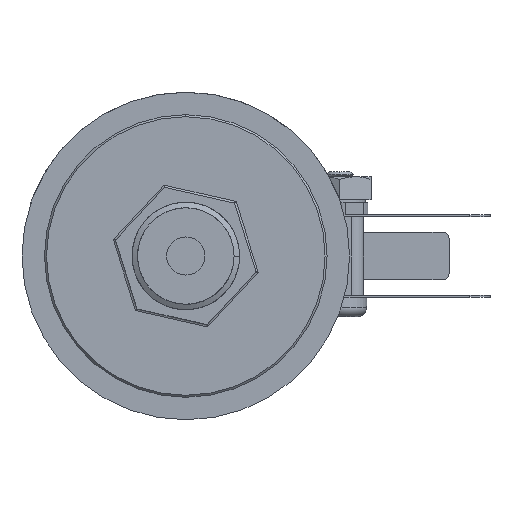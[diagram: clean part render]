
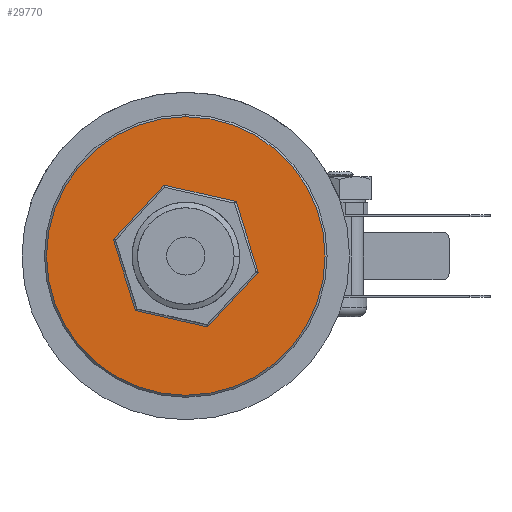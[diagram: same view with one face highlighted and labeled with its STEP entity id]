
A CAD part, front view. The second image highlights one B-rep face of the part: STEP entity #29770.
In plain terms, the highlighted planar face has unit normal (0, -1, 0).
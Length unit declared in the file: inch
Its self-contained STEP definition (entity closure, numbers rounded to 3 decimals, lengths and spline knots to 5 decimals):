
#1117 = CARTESIAN_POINT ( 'NONE',  ( 0.25098, 0., 0.27119 ) ) ;
#1240 = CARTESIAN_POINT ( 'NONE',  ( 0., 0., 0. ) ) ;
#1838 = DIRECTION ( 'NONE',  ( 0., -1., 0. ) ) ;
#2735 = EDGE_CURVE ( 'NONE', #31890, #9616, #21919, .T. ) ;
#2911 = DIRECTION ( 'NONE',  ( -0.975, 0., 0.221 ) ) ;
#2953 = CARTESIAN_POINT ( 'NONE',  ( 0.23486, 0., -0.21735 ) ) ;
#3736 = LINE ( 'NONE', #21945, #24589 ) ;
#3769 = LINE ( 'NONE', #2953, #18233 ) ;
#4003 = DIRECTION ( 'NONE',  ( 0., 0., -1. ) ) ;
#5433 = LINE ( 'NONE', #26561, #10978 ) ;
#5678 = VERTEX_POINT ( 'NONE', #11724 ) ;
#6002 = LINE ( 'NONE', #29734, #33178 ) ;
#6379 = EDGE_CURVE ( 'NONE', #8279, #31890, #26407, .T. ) ;
#6775 = VERTEX_POINT ( 'NONE', #21487 ) ;
#7089 = DIRECTION ( 'NONE',  ( 0.296, 0., -0.955 ) ) ;
#7113 = EDGE_CURVE ( 'NONE', #5678, #7400, #16975, .T. ) ;
#7400 = VERTEX_POINT ( 'NONE', #32854 ) ;
#7569 = DIRECTION ( 'NONE',  ( 0.679, 0., 0.734 ) ) ;
#8279 = VERTEX_POINT ( 'NONE', #8865 ) ;
#8865 = CARTESIAN_POINT ( 'NONE',  ( -0.10937, 0., 0.35295 ) ) ;
#8956 = AXIS2_PLACEMENT_3D ( 'NONE', #1240, #20270, #4003 ) ;
#9610 = CARTESIAN_POINT ( 'NONE',  ( 0.36035, 0., -0.08176 ) ) ;
#9616 = VERTEX_POINT ( 'NONE', #9610 ) ;
#9972 = CARTESIAN_POINT ( 'NONE',  ( 0., 0., 0. ) ) ;
#10843 = ORIENTED_EDGE ( 'NONE', *, *, #24523, .T. ) ;
#10978 = VECTOR ( 'NONE', #7569, 39.37008 ) ;
#11724 = CARTESIAN_POINT ( 'NONE',  ( 0., 0., 0.693 ) ) ;
#12157 = EDGE_LOOP ( 'NONE', ( #10843, #19603, #29135, #23841, #33474, #28561 ) ) ;
#13336 = FACE_OUTER_BOUND ( 'NONE', #21586, .T. ) ;
#14024 = CARTESIAN_POINT ( 'NONE',  ( -0.36035, 0., 0.08176 ) ) ;
#14410 = DIRECTION ( 'NONE',  ( 0.975, 0., -0.221 ) ) ;
#15254 = CARTESIAN_POINT ( 'NONE',  ( 0., 0., 0. ) ) ;
#15564 = VECTOR ( 'NONE', #7089, 39.37008 ) ;
#16975 = CIRCLE ( 'NONE', #8956, 0.693 ) ;
#17956 = DIRECTION ( 'NONE',  ( 0., 0., -1. ) ) ;
#18233 = VECTOR ( 'NONE', #19368, 39.37008 ) ;
#19368 = DIRECTION ( 'NONE',  ( -0.679, 0., -0.734 ) ) ;
#19603 = ORIENTED_EDGE ( 'NONE', *, *, #6379, .T. ) ;
#20041 = CIRCLE ( 'NONE', #29309, 0.693 ) ;
#20270 = DIRECTION ( 'NONE',  ( 0., -1., 0. ) ) ;
#20447 = EDGE_CURVE ( 'NONE', #28302, #26953, #6002, .T. ) ;
#20849 = DIRECTION ( 'NONE',  ( 0., 0., -1. ) ) ;
#21487 = CARTESIAN_POINT ( 'NONE',  ( 0.10937, 0., -0.35295 ) ) ;
#21586 = EDGE_LOOP ( 'NONE', ( #35191, #25500 ) ) ;
#21630 = DIRECTION ( 'NONE',  ( -0.296, 0., 0.955 ) ) ;
#21919 = LINE ( 'NONE', #23340, #15564 ) ;
#21945 = CARTESIAN_POINT ( 'NONE',  ( -0.0708, 0., -0.31207 ) ) ;
#23340 = CARTESIAN_POINT ( 'NONE',  ( 0.30566, 0., 0.09472 ) ) ;
#23537 = EDGE_CURVE ( 'NONE', #9616, #6775, #3769, .T. ) ;
#23841 = ORIENTED_EDGE ( 'NONE', *, *, #23537, .T. ) ;
#24067 = EDGE_CURVE ( 'NONE', #6775, #28302, #3736, .T. ) ;
#24523 = EDGE_CURVE ( 'NONE', #26953, #8279, #5433, .T. ) ;
#24589 = VECTOR ( 'NONE', #2911, 39.37008 ) ;
#25500 = ORIENTED_EDGE ( 'NONE', *, *, #30319, .T. ) ;
#26054 = FACE_BOUND ( 'NONE', #12157, .T. ) ;
#26407 = LINE ( 'NONE', #30677, #34484 ) ;
#26561 = CARTESIAN_POINT ( 'NONE',  ( -0.23486, 0., 0.21735 ) ) ;
#26953 = VERTEX_POINT ( 'NONE', #14024 ) ;
#28186 = CARTESIAN_POINT ( 'NONE',  ( -0.25098, 0., -0.27119 ) ) ;
#28302 = VERTEX_POINT ( 'NONE', #28186 ) ;
#28561 = ORIENTED_EDGE ( 'NONE', *, *, #20447, .T. ) ;
#28951 = PLANE ( 'NONE',  #32463 ) ;
#29135 = ORIENTED_EDGE ( 'NONE', *, *, #2735, .T. ) ;
#29309 = AXIS2_PLACEMENT_3D ( 'NONE', #15254, #34244, #17956 ) ;
#29734 = CARTESIAN_POINT ( 'NONE',  ( -0.30566, 0., -0.09472 ) ) ;
#29770 = ADVANCED_FACE ( 'NONE', ( #26054, #13336 ), #28951, .T. ) ;
#30319 = EDGE_CURVE ( 'NONE', #7400, #5678, #20041, .T. ) ;
#30677 = CARTESIAN_POINT ( 'NONE',  ( 0.0708, 0., 0.31207 ) ) ;
#31890 = VERTEX_POINT ( 'NONE', #1117 ) ;
#32463 = AXIS2_PLACEMENT_3D ( 'NONE', #9972, #1838, #20849 ) ;
#32854 = CARTESIAN_POINT ( 'NONE',  ( 0., 0., -0.693 ) ) ;
#33178 = VECTOR ( 'NONE', #21630, 39.37008 ) ;
#33474 = ORIENTED_EDGE ( 'NONE', *, *, #24067, .T. ) ;
#34244 = DIRECTION ( 'NONE',  ( 0., -1., 0. ) ) ;
#34484 = VECTOR ( 'NONE', #14410, 39.37008 ) ;
#35191 = ORIENTED_EDGE ( 'NONE', *, *, #7113, .T. ) ;
